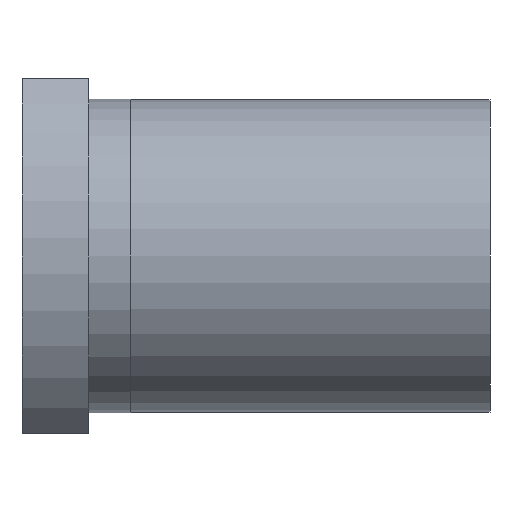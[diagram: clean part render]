
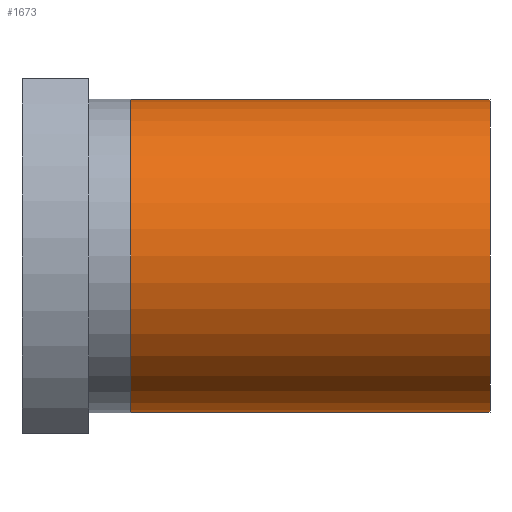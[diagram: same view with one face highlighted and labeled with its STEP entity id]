
A CAD part, front view. The second image highlights one B-rep face of the part: STEP entity #1673.
In plain terms, the highlighted cylindrical face has radius 37.375 mm (diameter 74.75 mm), a partial arc.
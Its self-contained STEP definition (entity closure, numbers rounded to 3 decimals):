
#14 = EDGE_CURVE ( 'NONE', #1617, #785, #115, .T. ) ;
#93 = LINE ( 'NONE', #94, #95 ) ;
#94 = CARTESIAN_POINT ( 'NONE',  ( 0., 0., -37.375 ) ) ;
#95 = VECTOR ( 'NONE', #96, 1000. ) ;
#96 = DIRECTION ( 'NONE',  ( -1., 0., 0. ) ) ;
#115 = LINE ( 'NONE', #116, #117 ) ;
#116 = CARTESIAN_POINT ( 'NONE',  ( 0., 0., 37.375 ) ) ;
#117 = VECTOR ( 'NONE', #118, 1000. ) ;
#118 = DIRECTION ( 'NONE',  ( -1., 0., 0. ) ) ;
#576 = CARTESIAN_POINT ( 'NONE',  ( 112., 0., -37.375 ) ) ;
#675 = CARTESIAN_POINT ( 'NONE',  ( 26., 0., 37.375 ) ) ;
#690 = CARTESIAN_POINT ( 'NONE',  ( 112., 0., 37.375 ) ) ;
#785 = VERTEX_POINT ( 'NONE', #675 ) ;
#929 = FACE_OUTER_BOUND ( 'NONE', #1643, .T. ) ;
#930 = CYLINDRICAL_SURFACE ( 'NONE', #931, 37.375 ) ;
#931 = AXIS2_PLACEMENT_3D ( 'NONE', #932, #933, #934 ) ;
#932 = CARTESIAN_POINT ( 'NONE',  ( 0., 0., 0. ) ) ;
#933 = DIRECTION ( 'NONE',  ( -1., 0., 0. ) ) ;
#934 = DIRECTION ( 'NONE',  ( 0., 0., 1. ) ) ;
#1147 = CIRCLE ( 'NONE', #1148, 37.375 ) ;
#1148 = AXIS2_PLACEMENT_3D ( 'NONE', #1153, #1154, #1155 ) ;
#1153 = CARTESIAN_POINT ( 'NONE',  ( 26., 0., 0. ) ) ;
#1154 = DIRECTION ( 'NONE',  ( -1., 0., 0. ) ) ;
#1155 = DIRECTION ( 'NONE',  ( 0., 0., 1. ) ) ;
#1259 = CARTESIAN_POINT ( 'NONE',  ( 26., 0., -37.375 ) ) ;
#1290 = CIRCLE ( 'NONE', #1291, 37.375 ) ;
#1291 = AXIS2_PLACEMENT_3D ( 'NONE', #1292, #1293, #1294 ) ;
#1292 = CARTESIAN_POINT ( 'NONE',  ( 112., 0., 0. ) ) ;
#1293 = DIRECTION ( 'NONE',  ( -1., 0., 0. ) ) ;
#1294 = DIRECTION ( 'NONE',  ( 0., 0., 1. ) ) ;
#1431 = VERTEX_POINT ( 'NONE', #1259 ) ;
#1448 = EDGE_CURVE ( 'NONE', #1589, #1617, #1290, .T. ) ;
#1463 = EDGE_CURVE ( 'NONE', #1589, #1431, #93, .T. ) ;
#1496 = ORIENTED_EDGE ( 'NONE', *, *, #1448, .T. ) ;
#1571 = ORIENTED_EDGE ( 'NONE', *, *, #1463, .F. ) ;
#1589 = VERTEX_POINT ( 'NONE', #576 ) ;
#1617 = VERTEX_POINT ( 'NONE', #690 ) ;
#1643 = EDGE_LOOP ( 'NONE', ( #1571, #1496, #1887, #1847 ) ) ;
#1673 = ADVANCED_FACE ( 'NONE', ( #929 ), #930, .T. ) ;
#1724 = EDGE_CURVE ( 'NONE', #1431, #785, #1147, .T. ) ;
#1847 = ORIENTED_EDGE ( 'NONE', *, *, #1724, .F. ) ;
#1887 = ORIENTED_EDGE ( 'NONE', *, *, #14, .T. ) ;
